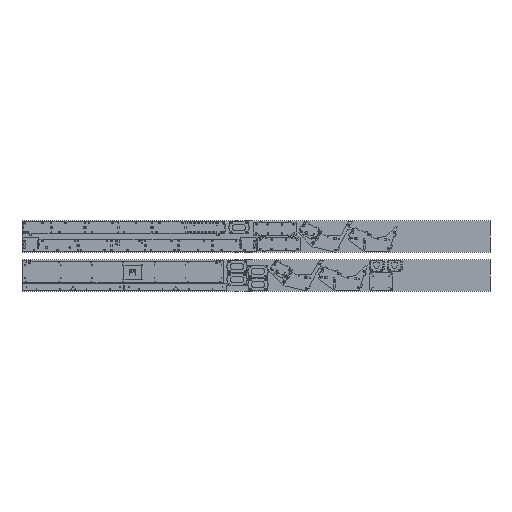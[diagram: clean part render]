
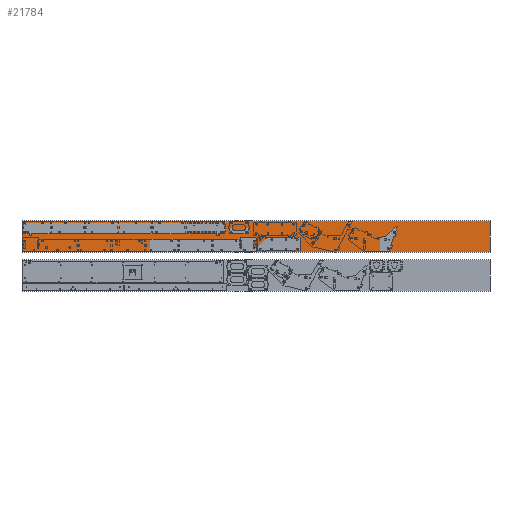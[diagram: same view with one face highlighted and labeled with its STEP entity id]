
A CAD part, top view. The second image highlights one B-rep face of the part: STEP entity #21784.
In plain terms, the highlighted planar face has unit normal (0, 0, 1).
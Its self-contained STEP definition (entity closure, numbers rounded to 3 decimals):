
#1250=PLANE('',#24138);
#2341=FACE_OUTER_BOUND('',#3853,.T.);
#3853=EDGE_LOOP('',(#20018,#20019,#20020,#20021));
#5695=LINE('',#37119,#7535);
#5699=LINE('',#37127,#7539);
#5702=LINE('',#37133,#7542);
#5705=LINE('',#37138,#7545);
#7535=VECTOR('',#30638,10.);
#7539=VECTOR('',#30644,10.);
#7542=VECTOR('',#30649,10.);
#7545=VECTOR('',#30654,10.);
#10837=VERTEX_POINT('',#37117);
#10838=VERTEX_POINT('',#37118);
#10841=VERTEX_POINT('',#37126);
#10843=VERTEX_POINT('',#37132);
#13899=EDGE_CURVE('',#10837,#10838,#5695,.T.);
#13903=EDGE_CURVE('',#10838,#10841,#5699,.T.);
#13906=EDGE_CURVE('',#10841,#10843,#5702,.T.);
#13909=EDGE_CURVE('',#10843,#10837,#5705,.T.);
#20018=ORIENTED_EDGE('',*,*,#13909,.T.);
#20019=ORIENTED_EDGE('',*,*,#13899,.T.);
#20020=ORIENTED_EDGE('',*,*,#13903,.T.);
#20021=ORIENTED_EDGE('',*,*,#13906,.T.);
#21784=ADVANCED_FACE('',(#2341),#1250,.T.);
#24138=AXIS2_PLACEMENT_3D('',#37140,#30656,#30657);
#30638=DIRECTION('',(1.,0.,0.));
#30644=DIRECTION('',(0.,1.,0.));
#30649=DIRECTION('',(-1.,0.,0.));
#30654=DIRECTION('',(0.,-1.,0.));
#30656=DIRECTION('center_axis',(0.,0.,1.));
#30657=DIRECTION('ref_axis',(1.,0.,0.));
#37117=CARTESIAN_POINT('',(10.155,26.18,0.));
#37118=CARTESIAN_POINT('',(3010.155,26.18,0.));
#37119=CARTESIAN_POINT('',(10.155,26.18,0.));
#37126=CARTESIAN_POINT('',(3010.155,226.18,0.));
#37127=CARTESIAN_POINT('',(3010.155,26.18,0.));
#37132=CARTESIAN_POINT('',(10.155,226.18,0.));
#37133=CARTESIAN_POINT('',(3010.155,226.18,0.));
#37138=CARTESIAN_POINT('',(10.155,226.18,0.));
#37140=CARTESIAN_POINT('Origin',(1510.155,126.18,0.));
